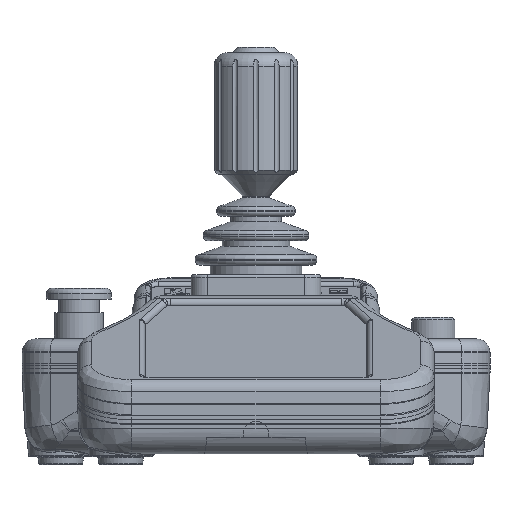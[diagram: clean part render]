
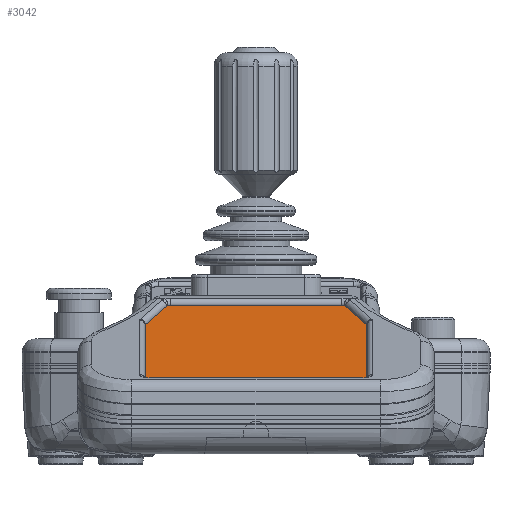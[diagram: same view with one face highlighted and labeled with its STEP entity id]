
A CAD part, front view. The second image highlights one B-rep face of the part: STEP entity #3042.
In plain terms, the highlighted free-form (B-spline) face has degree [3, 3] with [4, 4] control points.
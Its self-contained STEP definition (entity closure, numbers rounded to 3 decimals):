
#2405=B_SPLINE_SURFACE_WITH_KNOTS('',3,3,((#32617,#32618,#32619,#32620),
(#32621,#32622,#32623,#32624),(#32625,#32626,#32627,#32628),(#32629,#32630,
#32631,#32632)),.UNSPECIFIED.,.F.,.F.,.F.,(4,4),(4,4),(0.,1.),(0.,1.),
 .UNSPECIFIED.);
#3042=ADVANCED_FACE('',(#4086),#2405,.T.);
#4086=FACE_OUTER_BOUND('',#5075,.T.);
#5075=EDGE_LOOP('',(#10322,#10323,#10324,#10325,#10326,#10327,#10328,#10329,
#10330,#10331,#10332,#10333,#10334,#10335));
#10322=ORIENTED_EDGE('',*,*,#14722,.F.);
#10323=ORIENTED_EDGE('',*,*,#14723,.F.);
#10324=ORIENTED_EDGE('',*,*,#14724,.F.);
#10325=ORIENTED_EDGE('',*,*,#14725,.F.);
#10326=ORIENTED_EDGE('',*,*,#14726,.F.);
#10327=ORIENTED_EDGE('',*,*,#14727,.F.);
#10328=ORIENTED_EDGE('',*,*,#14728,.F.);
#10329=ORIENTED_EDGE('',*,*,#14729,.F.);
#10330=ORIENTED_EDGE('',*,*,#14730,.F.);
#10331=ORIENTED_EDGE('',*,*,#14731,.F.);
#10332=ORIENTED_EDGE('',*,*,#14732,.F.);
#10333=ORIENTED_EDGE('',*,*,#14733,.F.);
#10334=ORIENTED_EDGE('',*,*,#14734,.F.);
#10335=ORIENTED_EDGE('',*,*,#14735,.F.);
#12709=VERTEX_POINT('',#32547);
#12710=VERTEX_POINT('',#32548);
#12711=VERTEX_POINT('',#32553);
#12712=VERTEX_POINT('',#32558);
#12713=VERTEX_POINT('',#32563);
#12714=VERTEX_POINT('',#32568);
#12715=VERTEX_POINT('',#32573);
#12716=VERTEX_POINT('',#32578);
#12717=VERTEX_POINT('',#32585);
#12718=VERTEX_POINT('',#32590);
#12719=VERTEX_POINT('',#32597);
#12720=VERTEX_POINT('',#32602);
#12721=VERTEX_POINT('',#32607);
#12722=VERTEX_POINT('',#32612);
#14722=EDGE_CURVE('',#12709,#12710,#15824,.T.);
#14723=EDGE_CURVE('',#12711,#12709,#15825,.T.);
#14724=EDGE_CURVE('',#12712,#12711,#15826,.T.);
#14725=EDGE_CURVE('',#12713,#12712,#15827,.T.);
#14726=EDGE_CURVE('',#12714,#12713,#15828,.T.);
#14727=EDGE_CURVE('',#12715,#12714,#15829,.T.);
#14728=EDGE_CURVE('',#12716,#12715,#15830,.T.);
#14729=EDGE_CURVE('',#12717,#12716,#15831,.T.);
#14730=EDGE_CURVE('',#12718,#12717,#15832,.T.);
#14731=EDGE_CURVE('',#12719,#12718,#15833,.T.);
#14732=EDGE_CURVE('',#12720,#12719,#15834,.T.);
#14733=EDGE_CURVE('',#12721,#12720,#15835,.T.);
#14734=EDGE_CURVE('',#12722,#12721,#15836,.T.);
#14735=EDGE_CURVE('',#12710,#12722,#15837,.T.);
#15824=B_SPLINE_CURVE_WITH_KNOTS('',3,(#32543,#32544,#32545,#32546),
 .UNSPECIFIED.,.F.,.F.,(4,4),(0.,1.),.UNSPECIFIED.);
#15825=B_SPLINE_CURVE_WITH_KNOTS('',3,(#32549,#32550,#32551,#32552),
 .UNSPECIFIED.,.F.,.F.,(4,4),(0.,1.),.UNSPECIFIED.);
#15826=B_SPLINE_CURVE_WITH_KNOTS('',3,(#32554,#32555,#32556,#32557),
 .UNSPECIFIED.,.F.,.F.,(4,4),(0.,1.),.UNSPECIFIED.);
#15827=B_SPLINE_CURVE_WITH_KNOTS('',3,(#32559,#32560,#32561,#32562),
 .UNSPECIFIED.,.F.,.F.,(4,4),(0.,1.),.UNSPECIFIED.);
#15828=B_SPLINE_CURVE_WITH_KNOTS('',3,(#32564,#32565,#32566,#32567),
 .UNSPECIFIED.,.F.,.F.,(4,4),(0.,1.),.UNSPECIFIED.);
#15829=B_SPLINE_CURVE_WITH_KNOTS('',3,(#32569,#32570,#32571,#32572),
 .UNSPECIFIED.,.F.,.F.,(4,4),(0.,1.),.UNSPECIFIED.);
#15830=B_SPLINE_CURVE_WITH_KNOTS('',3,(#32574,#32575,#32576,#32577),
 .UNSPECIFIED.,.F.,.F.,(4,4),(0.,1.),.UNSPECIFIED.);
#15831=B_SPLINE_CURVE_WITH_KNOTS('',3,(#32579,#32580,#32581,#32582,#32583,
#32584),.UNSPECIFIED.,.F.,.F.,(4,2,4),(0.,0.5,1.),.UNSPECIFIED.);
#15832=B_SPLINE_CURVE_WITH_KNOTS('',3,(#32586,#32587,#32588,#32589),
 .UNSPECIFIED.,.F.,.F.,(4,4),(0.,1.),.UNSPECIFIED.);
#15833=B_SPLINE_CURVE_WITH_KNOTS('',3,(#32591,#32592,#32593,#32594,#32595,
#32596),.UNSPECIFIED.,.F.,.F.,(4,2,4),(0.,0.5,1.),.UNSPECIFIED.);
#15834=B_SPLINE_CURVE_WITH_KNOTS('',3,(#32598,#32599,#32600,#32601),
 .UNSPECIFIED.,.F.,.F.,(4,4),(0.,1.),.UNSPECIFIED.);
#15835=B_SPLINE_CURVE_WITH_KNOTS('',3,(#32603,#32604,#32605,#32606),
 .UNSPECIFIED.,.F.,.F.,(4,4),(0.,1.),.UNSPECIFIED.);
#15836=B_SPLINE_CURVE_WITH_KNOTS('',3,(#32608,#32609,#32610,#32611),
 .UNSPECIFIED.,.F.,.F.,(4,4),(0.,1.),.UNSPECIFIED.);
#15837=B_SPLINE_CURVE_WITH_KNOTS('',3,(#32613,#32614,#32615,#32616),
 .UNSPECIFIED.,.F.,.F.,(4,4),(0.,1.),.UNSPECIFIED.);
#32543=CARTESIAN_POINT('',(-39.5,-113.277,-31.611));
#32544=CARTESIAN_POINT('',(-40.285,-113.277,-31.611));
#32545=CARTESIAN_POINT('',(-41.,-112.606,-31.367));
#32546=CARTESIAN_POINT('',(-41.,-111.868,-31.098));
#32547=CARTESIAN_POINT('',(-39.5,-113.277,-31.611));
#32548=CARTESIAN_POINT('',(-41.,-111.868,-31.098));
#32549=CARTESIAN_POINT('',(39.5,-113.277,-31.611));
#32550=CARTESIAN_POINT('',(13.167,-113.277,-31.611));
#32551=CARTESIAN_POINT('',(-13.167,-113.277,-31.611));
#32552=CARTESIAN_POINT('',(-39.5,-113.277,-31.611));
#32553=CARTESIAN_POINT('',(39.5,-113.277,-31.611));
#32554=CARTESIAN_POINT('',(41.,-111.868,-31.098));
#32555=CARTESIAN_POINT('',(41.,-112.606,-31.367));
#32556=CARTESIAN_POINT('',(40.285,-113.277,-31.611));
#32557=CARTESIAN_POINT('',(39.5,-113.277,-31.611));
#32558=CARTESIAN_POINT('',(41.,-111.868,-31.098));
#32559=CARTESIAN_POINT('',(41.,-56.601,-10.983));
#32560=CARTESIAN_POINT('',(41.,-75.023,-17.688));
#32561=CARTESIAN_POINT('',(41.,-93.445,-24.393));
#32562=CARTESIAN_POINT('',(41.,-111.868,-31.098));
#32563=CARTESIAN_POINT('',(41.,-56.601,-10.983));
#32564=CARTESIAN_POINT('',(40.9,-56.093,-10.798));
#32565=CARTESIAN_POINT('',(40.966,-56.255,-10.857));
#32566=CARTESIAN_POINT('',(41.,-56.428,-10.92));
#32567=CARTESIAN_POINT('',(41.,-56.601,-10.983));
#32568=CARTESIAN_POINT('',(40.9,-56.093,-10.799));
#32569=CARTESIAN_POINT('',(33.113,-37.125,-3.894));
#32570=CARTESIAN_POINT('',(35.709,-43.447,-6.196));
#32571=CARTESIAN_POINT('',(38.304,-49.77,-8.497));
#32572=CARTESIAN_POINT('',(40.9,-56.093,-10.798));
#32573=CARTESIAN_POINT('',(33.113,-37.125,-3.894));
#32574=CARTESIAN_POINT('',(32.551,-36.462,-3.653));
#32575=CARTESIAN_POINT('',(32.804,-36.622,-3.711));
#32576=CARTESIAN_POINT('',(33.004,-36.857,-3.797));
#32577=CARTESIAN_POINT('',(33.113,-37.125,-3.894));
#32578=CARTESIAN_POINT('',(32.551,-36.462,-3.653));
#32579=CARTESIAN_POINT('',(31.714,-36.222,-3.568));
#32580=CARTESIAN_POINT('',(31.838,-36.222,-3.568));
#32581=CARTESIAN_POINT('',(31.94,-36.222,-3.568));
#32582=CARTESIAN_POINT('',(32.361,-36.343,-3.61));
#32583=CARTESIAN_POINT('',(32.487,-36.422,-3.638));
#32584=CARTESIAN_POINT('',(32.551,-36.462,-3.653));
#32585=CARTESIAN_POINT('',(31.714,-36.222,-3.567));
#32586=CARTESIAN_POINT('',(-31.714,-36.222,-3.568));
#32587=CARTESIAN_POINT('',(-10.571,-36.222,-3.568));
#32588=CARTESIAN_POINT('',(10.571,-36.222,-3.568));
#32589=CARTESIAN_POINT('',(31.714,-36.222,-3.568));
#32590=CARTESIAN_POINT('',(-31.714,-36.222,-3.567));
#32591=CARTESIAN_POINT('',(-32.551,-36.462,-3.653));
#32592=CARTESIAN_POINT('',(-32.485,-36.421,-3.638));
#32593=CARTESIAN_POINT('',(-32.319,-36.332,-3.606));
#32594=CARTESIAN_POINT('',(-31.986,-36.235,-3.572));
#32595=CARTESIAN_POINT('',(-31.837,-36.222,-3.568));
#32596=CARTESIAN_POINT('',(-31.714,-36.222,-3.568));
#32597=CARTESIAN_POINT('',(-32.551,-36.462,-3.653));
#32598=CARTESIAN_POINT('',(-33.113,-37.125,-3.894));
#32599=CARTESIAN_POINT('',(-33.004,-36.857,-3.797));
#32600=CARTESIAN_POINT('',(-32.804,-36.622,-3.711));
#32601=CARTESIAN_POINT('',(-32.551,-36.462,-3.653));
#32602=CARTESIAN_POINT('',(-33.113,-37.125,-3.894));
#32603=CARTESIAN_POINT('',(-40.899,-56.093,-10.798));
#32604=CARTESIAN_POINT('',(-38.304,-49.77,-8.497));
#32605=CARTESIAN_POINT('',(-35.709,-43.447,-6.196));
#32606=CARTESIAN_POINT('',(-33.113,-37.125,-3.894));
#32607=CARTESIAN_POINT('',(-40.899,-56.093,-10.798));
#32608=CARTESIAN_POINT('',(-41.,-56.601,-10.983));
#32609=CARTESIAN_POINT('',(-41.,-56.428,-10.92));
#32610=CARTESIAN_POINT('',(-40.966,-56.255,-10.857));
#32611=CARTESIAN_POINT('',(-40.899,-56.093,-10.798));
#32612=CARTESIAN_POINT('',(-41.,-56.601,-10.983));
#32613=CARTESIAN_POINT('',(-41.,-111.868,-31.098));
#32614=CARTESIAN_POINT('',(-41.,-93.445,-24.393));
#32615=CARTESIAN_POINT('',(-41.,-75.023,-17.688));
#32616=CARTESIAN_POINT('',(-41.,-56.601,-10.983));
#32617=CARTESIAN_POINT('',(-85.119,-75.392,-17.812));
#32618=CARTESIAN_POINT('',(-55.874,-49.815,-8.51));
#32619=CARTESIAN_POINT('',(-26.628,-24.239,0.792));
#32620=CARTESIAN_POINT('',(2.618,1.331,10.109));
#32621=CARTESIAN_POINT('',(-57.805,-102.97,-27.861));
#32622=CARTESIAN_POINT('',(-28.56,-77.394,-18.558));
#32623=CARTESIAN_POINT('',(0.686,-51.818,-9.257));
#32624=CARTESIAN_POINT('',(29.932,-26.247,0.061));
#32625=CARTESIAN_POINT('',(-30.491,-130.552,-37.9));
#32626=CARTESIAN_POINT('',(-1.246,-104.977,-28.595));
#32627=CARTESIAN_POINT('',(28.,-79.402,-19.289));
#32628=CARTESIAN_POINT('',(57.246,-53.831,-9.972));
#32629=CARTESIAN_POINT('',(-3.177,-158.136,-47.933));
#32630=CARTESIAN_POINT('',(26.068,-132.56,-38.63));
#32631=CARTESIAN_POINT('',(55.314,-106.985,-29.323));
#32632=CARTESIAN_POINT('',(84.56,-81.415,-20.005));
